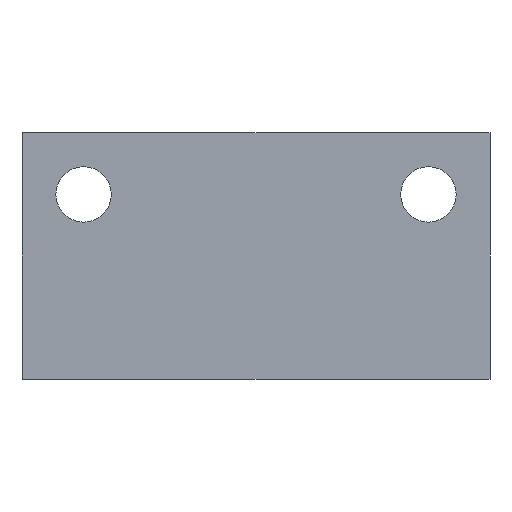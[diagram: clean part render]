
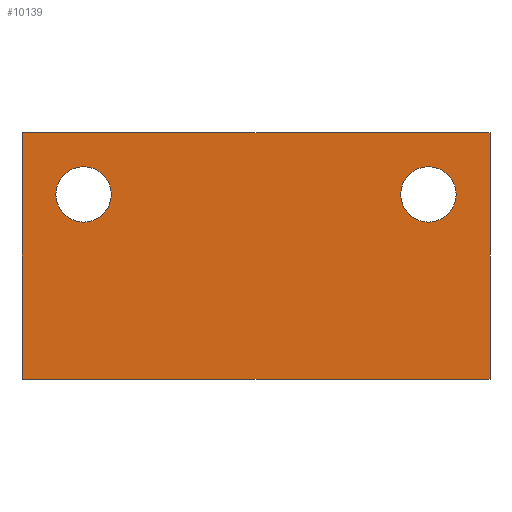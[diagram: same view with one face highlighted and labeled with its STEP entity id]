
A CAD part, front view. The second image highlights one B-rep face of the part: STEP entity #10139.
In plain terms, the highlighted planar face has unit normal (0, -1, 0).
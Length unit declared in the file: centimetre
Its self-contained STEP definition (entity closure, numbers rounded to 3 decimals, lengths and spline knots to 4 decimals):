
#251=CIRCLE('',#10523,0.225);
#255=CIRCLE('',#10677,0.225);
#1015=VERTEX_POINT('',#15489);
#1024=VERTEX_POINT('',#15511);
#1025=VERTEX_POINT('',#15513);
#1363=VERTEX_POINT('',#17013);
#1366=VERTEX_POINT('',#17018);
#1386=VERTEX_POINT('',#17080);
#2013=VECTOR('',#11531,1.);
#2420=VECTOR('',#12072,1.);
#2455=VECTOR('',#12135,1.);
#2456=VECTOR('',#12137,1.);
#3100=LINE('',#15512,#2013);
#3507=LINE('',#17019,#2420);
#3542=LINE('',#17101,#2455);
#3543=LINE('',#17103,#2456);
#4370=EDGE_CURVE('',#1015,#1015,#251,.T.);
#4382=EDGE_CURVE('',#1025,#1024,#3100,.T.);
#4895=EDGE_CURVE('',#1366,#1363,#3507,.T.);
#4923=EDGE_CURVE('',#1386,#1386,#255,.T.);
#4935=EDGE_CURVE('',#1025,#1366,#3542,.T.);
#4936=EDGE_CURVE('',#1363,#1024,#3543,.T.);
#7533=ORIENTED_EDGE('',*,*,#4370,.F.);
#7534=ORIENTED_EDGE('',*,*,#4923,.T.);
#7535=ORIENTED_EDGE('',*,*,#4895,.F.);
#7536=ORIENTED_EDGE('',*,*,#4935,.F.);
#7537=ORIENTED_EDGE('',*,*,#4382,.T.);
#7538=ORIENTED_EDGE('',*,*,#4936,.F.);
#8875=EDGE_LOOP('',(#7533));
#8876=EDGE_LOOP('',(#7534));
#8877=EDGE_LOOP('',(#7535,#7536,#7537,#7538));
#9534=FACE_BOUND('',#8875,.T.);
#9535=FACE_BOUND('',#8876,.T.);
#9536=FACE_BOUND('',#8877,.T.);
#10139=ADVANCED_FACE('',(#9534,#9535,#9536),#19839,.F.);
#10523=AXIS2_PLACEMENT_3D('',#15488,#11516,#11517);
#10677=AXIS2_PLACEMENT_3D('',#17079,#12118,#12119);
#10684=AXIS2_PLACEMENT_3D('',#17104,#12138,$);
#11516=DIRECTION('',(0.,-1.,0.));
#11517=DIRECTION('',(-0.225,0.,0.));
#11531=DIRECTION('',(0.,0.,1.));
#12072=DIRECTION('',(0.,0.,1.));
#12118=DIRECTION('',(0.,1.,0.));
#12119=DIRECTION('',(0.225,0.,0.));
#12135=DIRECTION('',(-1.,0.,0.));
#12137=DIRECTION('',(1.,0.,0.));
#12138=DIRECTION('',(0.,1.,0.));
#15488=CARTESIAN_POINT('',(3.3,0.,0.5));
#15489=CARTESIAN_POINT('',(3.525,0.,0.5));
#15511=CARTESIAN_POINT('',(3.8,0.,1.));
#15512=CARTESIAN_POINT('',(3.8,0.,-1.));
#15513=CARTESIAN_POINT('',(3.8,0.,-1.));
#17013=CARTESIAN_POINT('',(0.,0.,1.));
#17018=CARTESIAN_POINT('',(0.,0.,-1.));
#17019=CARTESIAN_POINT('',(0.,0.,-1.));
#17079=CARTESIAN_POINT('',(0.5,0.,0.5));
#17080=CARTESIAN_POINT('',(0.275,0.,0.5));
#17101=CARTESIAN_POINT('',(1.8,0.,-1.));
#17103=CARTESIAN_POINT('',(0.,0.,1.));
#17104=CARTESIAN_POINT('',(0.9,0.,0.));
#19839=PLANE('',#10684);
